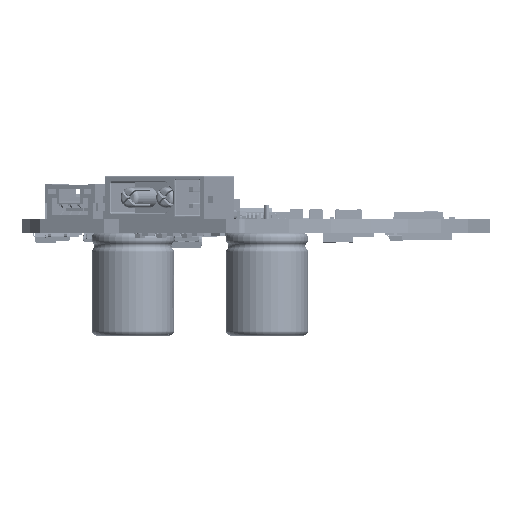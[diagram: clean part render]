
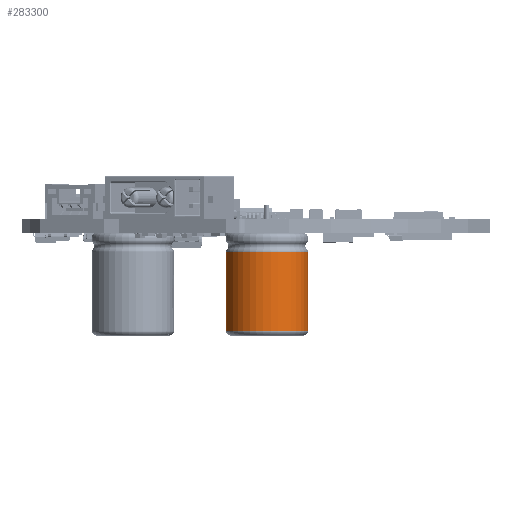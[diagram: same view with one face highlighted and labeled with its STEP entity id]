
A CAD part, left-side view. The second image highlights one B-rep face of the part: STEP entity #283300.
In plain terms, the highlighted cylindrical face has radius 5 mm (diameter 10 mm), a partial arc.
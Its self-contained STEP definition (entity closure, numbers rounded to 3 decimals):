
#282900 = VERTEX_POINT('',#282901);
#282901 = CARTESIAN_POINT('',(4.532,2.113,-11.9));
#282908 = EDGE_CURVE('',#282900,#282909,#282911,.T.);
#282909 = VERTEX_POINT('',#282910);
#282910 = CARTESIAN_POINT('',(4.532,2.113,
    -2.355));
#282911 = LINE('',#282912,#282913);
#282912 = CARTESIAN_POINT('',(4.532,2.113,-0.1));
#282913 = VECTOR('',#282914,1.);
#282914 = DIRECTION('',(0.,0.,1.));
#283062 = VERTEX_POINT('',#283063);
#283063 = CARTESIAN_POINT('',(4.532,-2.113,
    -2.355));
#283070 = EDGE_CURVE('',#283071,#283062,#283073,.T.);
#283071 = VERTEX_POINT('',#283072);
#283072 = CARTESIAN_POINT('',(4.532,-2.113,-11.9));
#283073 = LINE('',#283074,#283075);
#283074 = CARTESIAN_POINT('',(4.532,-2.113,-0.1));
#283075 = VECTOR('',#283076,1.);
#283076 = DIRECTION('',(0.,0.,1.));
#283287 = EDGE_CURVE('',#282909,#283062,#283288,.T.);
#283288 = CIRCLE('',#283289,5.);
#283289 = AXIS2_PLACEMENT_3D('',#283290,#283291,#283292);
#283290 = CARTESIAN_POINT('',(0.,0.,
    -2.355));
#283291 = DIRECTION('',(0.,0.,1.));
#283292 = DIRECTION('',(1.,0.,0.));
#283300 = ADVANCED_FACE('',(#283301),#283313,.T.);
#283301 = FACE_BOUND('',#283302,.T.);
#283302 = EDGE_LOOP('',(#283303,#283304,#283311,#283312));
#283303 = ORIENTED_EDGE('',*,*,#282908,.F.);
#283304 = ORIENTED_EDGE('',*,*,#283305,.T.);
#283305 = EDGE_CURVE('',#282900,#283071,#283306,.T.);
#283306 = CIRCLE('',#283307,5.);
#283307 = AXIS2_PLACEMENT_3D('',#283308,#283309,#283310);
#283308 = CARTESIAN_POINT('',(0.,0.,-11.9));
#283309 = DIRECTION('',(0.,0.,1.));
#283310 = DIRECTION('',(1.,0.,0.));
#283311 = ORIENTED_EDGE('',*,*,#283070,.T.);
#283312 = ORIENTED_EDGE('',*,*,#283287,.F.);
#283313 = CYLINDRICAL_SURFACE('',#283314,5.);
#283314 = AXIS2_PLACEMENT_3D('',#283315,#283316,#283317);
#283315 = CARTESIAN_POINT('',(0.,0.,-0.1));
#283316 = DIRECTION('',(0.,0.,1.));
#283317 = DIRECTION('',(1.,0.,0.));
